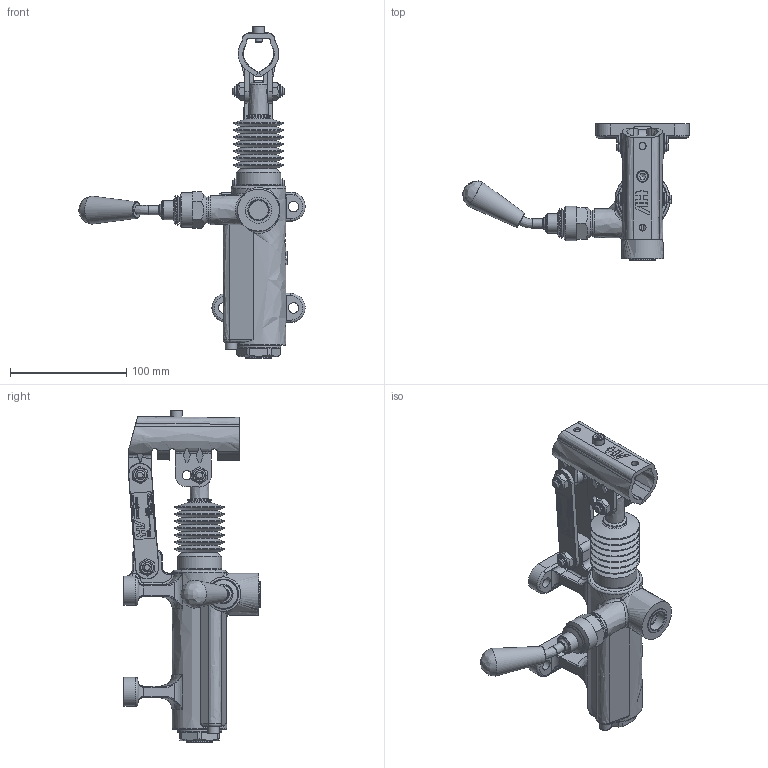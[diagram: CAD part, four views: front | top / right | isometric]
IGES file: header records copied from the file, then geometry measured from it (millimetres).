
Global section: file name: No Iges File Name specified; native system: Autodesk Inventor 2013; preprocessor: AutoDesk Inventor Iges Exporter R2013; author: christian.scardovi; date: 20240322.161816; units: millimetre
Bounding box: 194.24 x 117 x 285.13 mm (x, y, z)
Volume: 556604 mm3; surface area: 107044.9 mm2
Topology: 3 solids, 3 shells, 1179 faces, 3019 edges, 1907 vertices
Faces by surface type: bspline 1179
